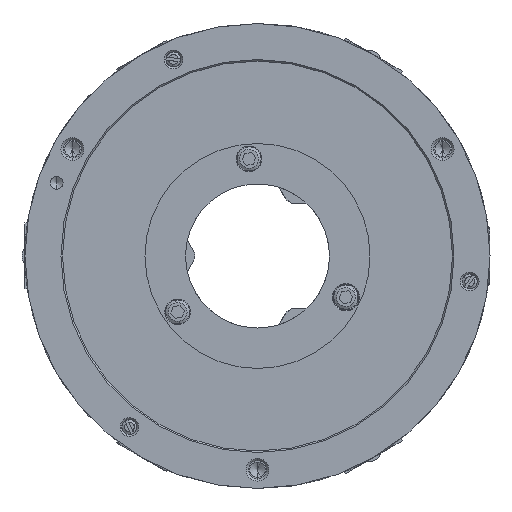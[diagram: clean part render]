
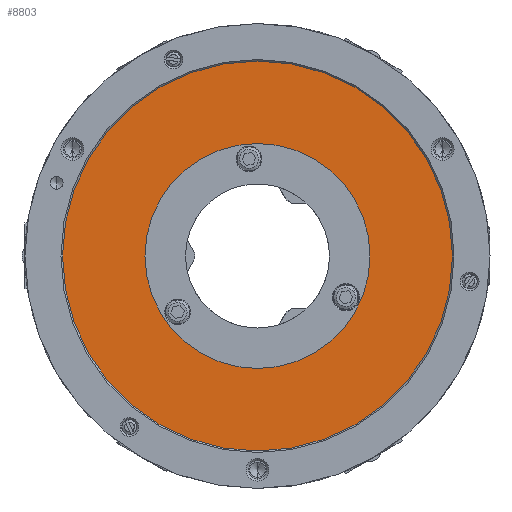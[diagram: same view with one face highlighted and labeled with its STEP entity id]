
A CAD part, left-side view. The second image highlights one B-rep face of the part: STEP entity #8803.
In plain terms, the highlighted planar face has unit normal (-1, 0, 0).
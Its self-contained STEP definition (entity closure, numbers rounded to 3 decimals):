
#2293 = CIRCLE ( 'NONE', #39590, 130. ) ;
#2458 = FACE_OUTER_BOUND ( 'NONE', #24237, .T. ) ;
#3722 = CARTESIAN_POINT ( 'NONE',  ( -89., 0., -130. ) ) ;
#3833 = DIRECTION ( 'NONE',  ( 0., 0., -1. ) ) ;
#4113 = DIRECTION ( 'NONE',  ( 0., 0., -1. ) ) ;
#5503 = DIRECTION ( 'NONE',  ( -1., 0., 0. ) ) ;
#5724 = FACE_BOUND ( 'NONE', #14160, .T. ) ;
#7632 = CARTESIAN_POINT ( 'NONE',  ( -89., 0., 0. ) ) ;
#8397 = CIRCLE ( 'NONE', #34486, 75. ) ;
#8803 = ADVANCED_FACE ( 'NONE', ( #5724, #2458 ), #41008, .T. ) ;
#8997 = EDGE_CURVE ( 'NONE', #40603, #36622, #18158, .T. ) ;
#9015 = CARTESIAN_POINT ( 'NONE',  ( -89., 65., -112.583 ) ) ;
#9556 = DIRECTION ( 'NONE',  ( 0., 0., -1. ) ) ;
#9732 = CARTESIAN_POINT ( 'NONE',  ( -89., 0., -75. ) ) ;
#11788 = EDGE_CURVE ( 'NONE', #37145, #15937, #8397, .T. ) ;
#13181 = CARTESIAN_POINT ( 'NONE',  ( -89., 0., 75. ) ) ;
#14160 = EDGE_LOOP ( 'NONE', ( #44509, #27753 ) ) ;
#15842 = AXIS2_PLACEMENT_3D ( 'NONE', #7632, #21895, #4113 ) ;
#15937 = VERTEX_POINT ( 'NONE', #9732 ) ;
#18131 = AXIS2_PLACEMENT_3D ( 'NONE', #9015, #5503, #34220 ) ;
#18158 = CIRCLE ( 'NONE', #28605, 130. ) ;
#19193 = DIRECTION ( 'NONE',  ( 1., 0., 0. ) ) ;
#19395 = DIRECTION ( 'NONE',  ( 1., 0., 0. ) ) ;
#21773 = DIRECTION ( 'NONE',  ( 0., 0., -1. ) ) ;
#21895 = DIRECTION ( 'NONE',  ( 1., 0., 0. ) ) ;
#24237 = EDGE_LOOP ( 'NONE', ( #46103, #44903 ) ) ;
#24663 = EDGE_CURVE ( 'NONE', #15937, #37145, #34447, .T. ) ;
#25113 = DIRECTION ( 'NONE',  ( 1., 0., 0. ) ) ;
#27753 = ORIENTED_EDGE ( 'NONE', *, *, #11788, .T. ) ;
#28605 = AXIS2_PLACEMENT_3D ( 'NONE', #36061, #25113, #3833 ) ;
#34220 = DIRECTION ( 'NONE',  ( 0., 0., 1. ) ) ;
#34447 = CIRCLE ( 'NONE', #15842, 75. ) ;
#34486 = AXIS2_PLACEMENT_3D ( 'NONE', #34836, #19193, #21773 ) ;
#34569 = CARTESIAN_POINT ( 'NONE',  ( -89., 0., 130. ) ) ;
#34836 = CARTESIAN_POINT ( 'NONE',  ( -89., 0., 0. ) ) ;
#36061 = CARTESIAN_POINT ( 'NONE',  ( -89., 0., 0. ) ) ;
#36622 = VERTEX_POINT ( 'NONE', #3722 ) ;
#37145 = VERTEX_POINT ( 'NONE', #13181 ) ;
#37793 = EDGE_CURVE ( 'NONE', #36622, #40603, #2293, .T. ) ;
#37798 = CARTESIAN_POINT ( 'NONE',  ( -89., 0., 0. ) ) ;
#39590 = AXIS2_PLACEMENT_3D ( 'NONE', #37798, #19395, #9556 ) ;
#40603 = VERTEX_POINT ( 'NONE', #34569 ) ;
#41008 = PLANE ( 'NONE',  #18131 ) ;
#44509 = ORIENTED_EDGE ( 'NONE', *, *, #24663, .T. ) ;
#44903 = ORIENTED_EDGE ( 'NONE', *, *, #8997, .F. ) ;
#46103 = ORIENTED_EDGE ( 'NONE', *, *, #37793, .F. ) ;
